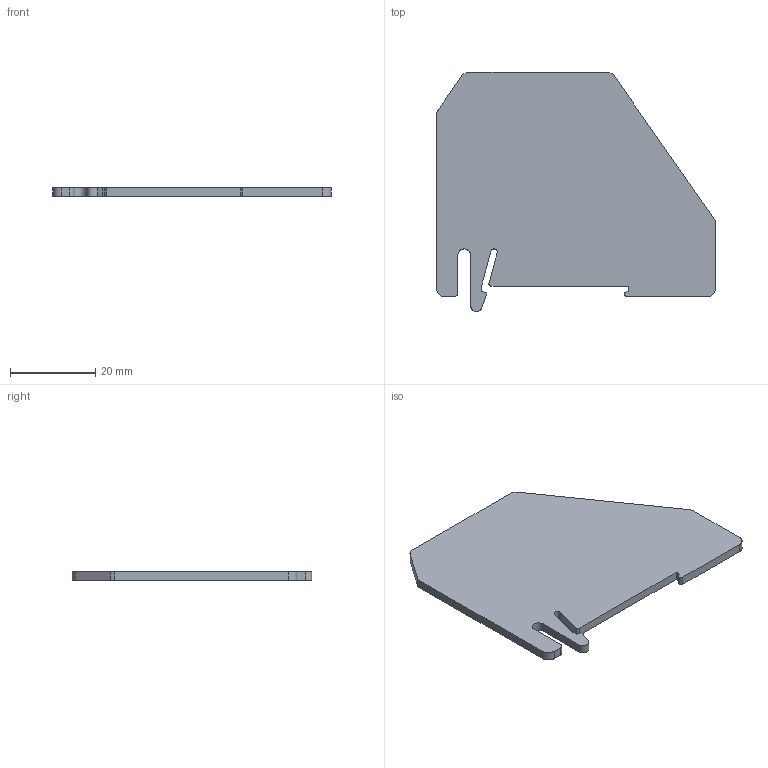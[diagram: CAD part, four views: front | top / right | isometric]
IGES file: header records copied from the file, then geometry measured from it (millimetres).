
Global section: file name: 1413272_atp_dik15_select.igs; native system: OneSpace Designer 3D IGES; preprocessor: 12.01C  26-Mar-2004; date: 20040819.101503; units: millimetre
Bounding box: 65.3 x 56.05 x 2.05 mm (x, y, z)
Surface area: 6254.8 mm2 (no closed solid volume)
Topology: 0 solids, 0 shells, 34 faces, 274 edges, 274 vertices
Faces by surface type: bspline 34
